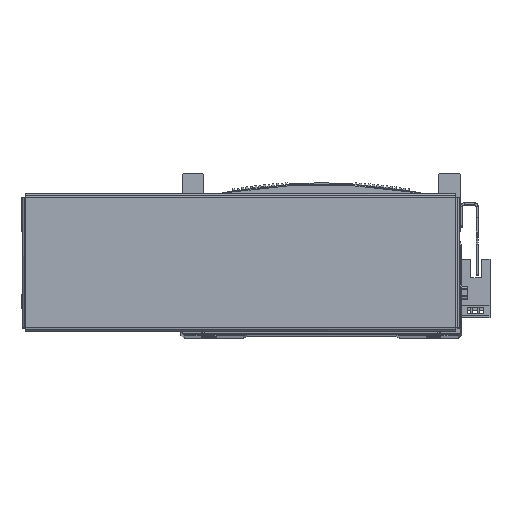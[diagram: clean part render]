
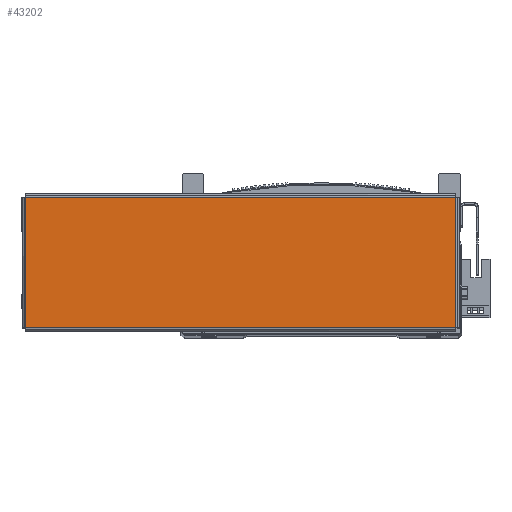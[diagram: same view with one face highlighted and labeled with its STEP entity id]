
A CAD part, top view. The second image highlights one B-rep face of the part: STEP entity #43202.
In plain terms, the highlighted planar face has unit normal (0, 0, 1) as drawn and (0, -1, 0) by its records, which use the part's own axes.
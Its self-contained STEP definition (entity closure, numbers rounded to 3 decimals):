
#3504 = DIRECTION ( 'NONE',  ( 0., 0., 1. ) ) ;
#3527 = PLANE ( 'NONE',  #73043 ) ;
#3529 = CARTESIAN_POINT ( 'NONE',  ( 0., -1., 0. ) ) ;
#3536 = DIRECTION ( 'NONE',  ( 0., 1., 0. ) ) ;
#4993 = LINE ( 'NONE', #7795, #4997 ) ;
#4997 = VECTOR ( 'NONE', #7820, 1000. ) ;
#5010 = LINE ( 'NONE', #7776, #5048 ) ;
#5048 = VECTOR ( 'NONE', #7742, 1000. ) ;
#5092 = VECTOR ( 'NONE', #8147, 1000. ) ;
#5108 = LINE ( 'NONE', #8191, #5092 ) ;
#5122 = LINE ( 'NONE', #8504, #5124 ) ;
#5124 = VECTOR ( 'NONE', #8534, 1000. ) ;
#5828 = FACE_OUTER_BOUND ( 'NONE', #63813, .T. ) ;
#6665 = CARTESIAN_POINT ( 'NONE',  ( 103.513, -1., 31.363 ) ) ;
#6675 = CARTESIAN_POINT ( 'NONE',  ( 103.513, -1., -31.363 ) ) ;
#6688 = CARTESIAN_POINT ( 'NONE',  ( -103.513, -1., -31.363 ) ) ;
#6835 = CARTESIAN_POINT ( 'NONE',  ( -103.513, -1., 31.363 ) ) ;
#7742 = DIRECTION ( 'NONE',  ( 0., 0., 1. ) ) ;
#7776 = CARTESIAN_POINT ( 'NONE',  ( 103.513, -1., -31.393 ) ) ;
#7795 = CARTESIAN_POINT ( 'NONE',  ( -103.543, -1., -31.363 ) ) ;
#7820 = DIRECTION ( 'NONE',  ( 1., 0., 0. ) ) ;
#8147 = DIRECTION ( 'NONE',  ( -1., 0., 0. ) ) ;
#8191 = CARTESIAN_POINT ( 'NONE',  ( 103.543, -1., 31.363 ) ) ;
#8504 = CARTESIAN_POINT ( 'NONE',  ( -103.513, -1., 31.393 ) ) ;
#8534 = DIRECTION ( 'NONE',  ( 0., 0., -1. ) ) ;
#33572 = ORIENTED_EDGE ( 'NONE', *, *, #38947, .T. ) ;
#33578 = ORIENTED_EDGE ( 'NONE', *, *, #39044, .T. ) ;
#33588 = ORIENTED_EDGE ( 'NONE', *, *, #39007, .T. ) ;
#33640 = ORIENTED_EDGE ( 'NONE', *, *, #38962, .T. ) ;
#38947 = EDGE_CURVE ( 'NONE', #58246, #58236, #5010, .T. ) ;
#38962 = EDGE_CURVE ( 'NONE', #58178, #58246, #4993, .T. ) ;
#39007 = EDGE_CURVE ( 'NONE', #58236, #58270, #5108, .T. ) ;
#39044 = EDGE_CURVE ( 'NONE', #58270, #58178, #5122, .T. ) ;
#43202 = ADVANCED_FACE ( 'NONE', ( #5828 ), #3527, .F. ) ;
#58178 = VERTEX_POINT ( 'NONE', #6688 ) ;
#58236 = VERTEX_POINT ( 'NONE', #6665 ) ;
#58246 = VERTEX_POINT ( 'NONE', #6675 ) ;
#58270 = VERTEX_POINT ( 'NONE', #6835 ) ;
#63813 = EDGE_LOOP ( 'NONE', ( #33588, #33578, #33640, #33572 ) ) ;
#73043 = AXIS2_PLACEMENT_3D ( 'NONE', #3529, #3536, #3504 ) ;
